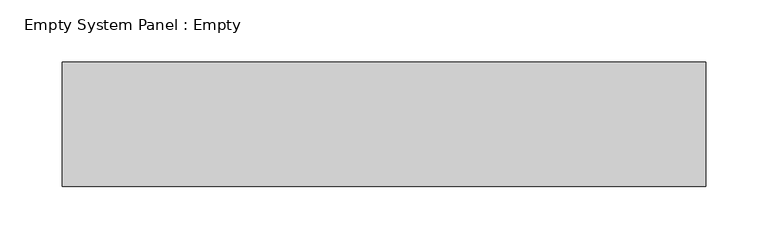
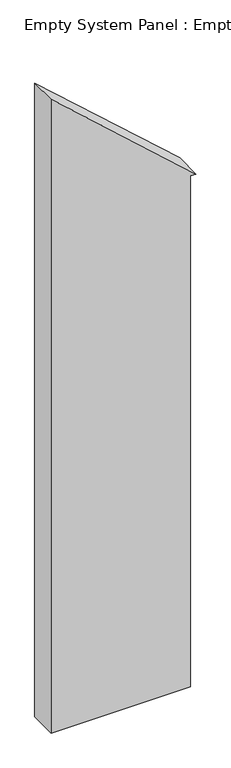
"""IFC4 building model written with IfcOpenShell, lengths in millimetres: plate geometry, Empty System Panel : Empty."""

from ifc_helpers import new_model, si_unit, frame, origin, place, context, project, spatial, polyline, outline, extrude, source, transform, mapped, element, save


def empty_system_panel_empty_a560483a(model_context):
    return source(origin(), model_context, "Body", "SweptSolid", [
        extrude(outline(polyline([(0.0, -258.7446429), (0.0, 238.7446429), (1923.1712767, 238.7446429), (1923.1712767, 258.7446429), (2386.0737739, -258.7446429), (0.0, -258.7446429)])), frame((0.0, -50.0, 0.0), z_axis=(0.0, 1.0, 0.0), x_axis=(0.0, 0.0, 1.0)), (0.0, 0.0, 1.0), 100.0),
    ])


if __name__ == "__main__":
    model = new_model("IFC4")
    model_context = context("Model", 3, world=origin())
    ifc_project = project(units=[si_unit("LENGTHUNIT", "METRE", prefix="MILLI")], contexts=[model_context])
    site = spatial("IfcSite", under=ifc_project)
    building = spatial("IfcBuilding", under=site)
    placement = place(None, origin())
    empty_system_panel_empty_shape = empty_system_panel_empty_a560483a(model_context)
    element("IfcPlate", 1, ObjectType="Empty System Panel : Empty", at=placement, inside=building, context=model_context, shape_type="MappedRepresentation", body=[
        mapped(empty_system_panel_empty_shape, transform((0.0, 0.0, 0.0), x_axis=(1.0, 0.0, 0.0), y_axis=(0.0, 1.0, 0.0), z_axis=(0.0, 0.0, 1.0))),
    ])
    save(model, "model.ifc")
